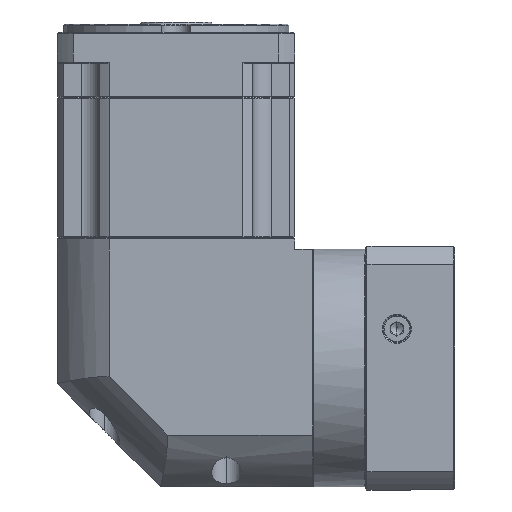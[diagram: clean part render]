
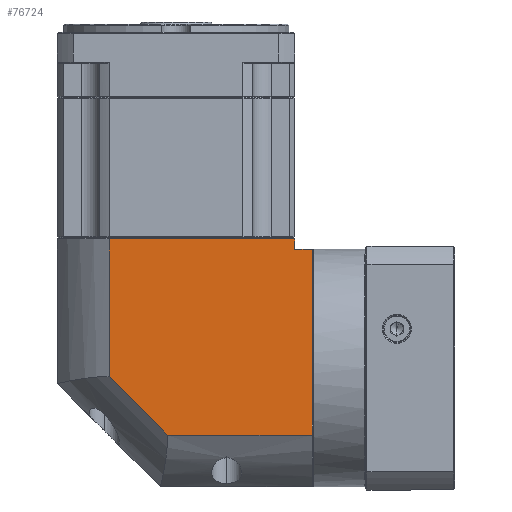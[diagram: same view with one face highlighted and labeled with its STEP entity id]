
A CAD part, left-side view. The second image highlights one B-rep face of the part: STEP entity #76724.
In plain terms, the highlighted planar face has unit normal (-1, 0, 0).
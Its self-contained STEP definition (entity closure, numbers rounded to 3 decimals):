
#6411 = ORIENTED_EDGE ( 'NONE', *, *, #101447, .F. ) ;
#6524 = CARTESIAN_POINT ( 'NONE',  ( -280.587, -70.771, 63.532 ) ) ;
#8470 = VERTEX_POINT ( 'NONE', #154321 ) ;
#9685 = EDGE_LOOP ( 'NONE', ( #168295, #32212, #6411, #46736, #17330, #90537, #95560 ) ) ;
#10053 = VERTEX_POINT ( 'NONE', #67736 ) ;
#13858 = LINE ( 'NONE', #153174, #48295 ) ;
#15058 = DIRECTION ( 'NONE',  ( 0., 0., -1. ) ) ;
#17330 = ORIENTED_EDGE ( 'NONE', *, *, #154683, .T. ) ;
#20241 = LINE ( 'NONE', #58363, #119535 ) ;
#20768 = LINE ( 'NONE', #154291, #120056 ) ;
#21452 = CARTESIAN_POINT ( 'NONE',  ( -280.587, -62.371, 63.532 ) ) ;
#23568 = EDGE_CURVE ( 'NONE', #10053, #98116, #20768, .T. ) ;
#23814 = CARTESIAN_POINT ( 'NONE',  ( -280.587, 27.528, 68.532 ) ) ;
#30940 = CARTESIAN_POINT ( 'NONE',  ( -280.587, 52.629, 75.032 ) ) ;
#32212 = ORIENTED_EDGE ( 'NONE', *, *, #133891, .F. ) ;
#39021 = VERTEX_POINT ( 'NONE', #71109 ) ;
#43930 = DIRECTION ( 'NONE',  ( 0., 1., 0. ) ) ;
#45520 = LINE ( 'NONE', #144880, #75893 ) ;
#46736 = ORIENTED_EDGE ( 'NONE', *, *, #108916, .F. ) ;
#47553 = CARTESIAN_POINT ( 'NONE',  ( -280.587, -62.371, 63.532 ) ) ;
#47825 = LINE ( 'NONE', #117541, #116755 ) ;
#48295 = VECTOR ( 'NONE', #75401, 1000. ) ;
#52443 = DIRECTION ( 'NONE',  ( 0., 0., 1. ) ) ;
#58363 = CARTESIAN_POINT ( 'NONE',  ( -280.587, 52.629, -26.368 ) ) ;
#63490 = DIRECTION ( 'NONE',  ( 0., 0., 1. ) ) ;
#67736 = CARTESIAN_POINT ( 'NONE',  ( -280.587, 27.528, 1.971 ) ) ;
#71109 = CARTESIAN_POINT ( 'NONE',  ( -280.587, -62.371, 68.532 ) ) ;
#75401 = DIRECTION ( 'NONE',  ( 0., 0.707, 0.707 ) ) ;
#75893 = VECTOR ( 'NONE', #157991, 1000. ) ;
#76586 = EDGE_CURVE ( 'NONE', #98116, #39021, #45520, .T. ) ;
#76724 = ADVANCED_FACE ( 'NONE', ( #85994 ), #120417, .F. ) ;
#85994 = FACE_OUTER_BOUND ( 'NONE', #9685, .T. ) ;
#86734 = EDGE_CURVE ( 'NONE', #113995, #39021, #47825, .T. ) ;
#88198 = VECTOR ( 'NONE', #137634, 1000. ) ;
#90537 = ORIENTED_EDGE ( 'NONE', *, *, #86734, .T. ) ;
#92290 = LINE ( 'NONE', #47553, #88198 ) ;
#95560 = ORIENTED_EDGE ( 'NONE', *, *, #76586, .F. ) ;
#96311 = DIRECTION ( 'NONE',  ( 0., 1., 0. ) ) ;
#98116 = VERTEX_POINT ( 'NONE', #23814 ) ;
#101447 = EDGE_CURVE ( 'NONE', #125048, #8470, #20241, .T. ) ;
#103734 = LINE ( 'NONE', #144278, #138233 ) ;
#108916 = EDGE_CURVE ( 'NONE', #146770, #125048, #103734, .T. ) ;
#113995 = VERTEX_POINT ( 'NONE', #21452 ) ;
#116755 = VECTOR ( 'NONE', #52443, 1000. ) ;
#117541 = CARTESIAN_POINT ( 'NONE',  ( -280.587, -62.371, -51.468 ) ) ;
#119535 = VECTOR ( 'NONE', #96311, 1000. ) ;
#120056 = VECTOR ( 'NONE', #63490, 1000. ) ;
#120417 = PLANE ( 'NONE',  #160650 ) ;
#120879 = CARTESIAN_POINT ( 'NONE',  ( -280.587, -70.771, -26.368 ) ) ;
#121489 = DIRECTION ( 'NONE',  ( 1., 0., 0. ) ) ;
#125048 = VERTEX_POINT ( 'NONE', #120879 ) ;
#133891 = EDGE_CURVE ( 'NONE', #8470, #10053, #13858, .T. ) ;
#137634 = DIRECTION ( 'NONE',  ( 0., 1., 0. ) ) ;
#138233 = VECTOR ( 'NONE', #15058, 1000. ) ;
#144278 = CARTESIAN_POINT ( 'NONE',  ( -280.587, -70.771, 75.032 ) ) ;
#144880 = CARTESIAN_POINT ( 'NONE',  ( -280.587, 52.629, 68.532 ) ) ;
#146770 = VERTEX_POINT ( 'NONE', #6524 ) ;
#153174 = CARTESIAN_POINT ( 'NONE',  ( -280.587, -0.81, -26.368 ) ) ;
#154291 = CARTESIAN_POINT ( 'NONE',  ( -280.587, 27.528, 75.032 ) ) ;
#154321 = CARTESIAN_POINT ( 'NONE',  ( -280.587, -0.81, -26.368 ) ) ;
#154683 = EDGE_CURVE ( 'NONE', #146770, #113995, #92290, .T. ) ;
#157991 = DIRECTION ( 'NONE',  ( 0., -1., 0. ) ) ;
#160650 = AXIS2_PLACEMENT_3D ( 'NONE', #30940, #121489, #43930 ) ;
#168295 = ORIENTED_EDGE ( 'NONE', *, *, #23568, .F. ) ;
